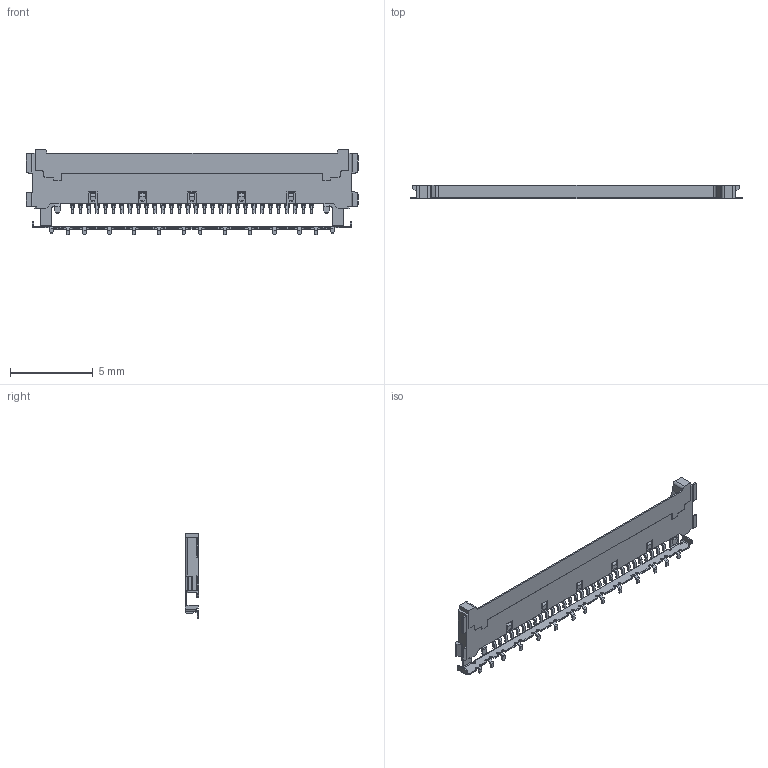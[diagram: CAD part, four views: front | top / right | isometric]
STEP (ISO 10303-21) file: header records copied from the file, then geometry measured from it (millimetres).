
FILE_DESCRIPTION (( 'STEP AP203' ), '1' );
FILE_NAME ('20849-030E-01C RECE ASS''Y STEP R1 ALL.STEP', '2017-09-06T06:48:45', ( '' ), ( '' ), 'SwSTEP 2.0', 'SolidWorks 2014', '' );
FILE_SCHEMA (( 'CONFIG_CONTROL_DESIGN' ));
Length unit declared in the file: millimetre
Products named in the file (1): 20849-030E-01C RECE ASS''Y STEP R1 ALL
Bounding box: 20.1 x 0.82 x 5.2 mm (x, y, z)
Volume: 37.2 mm3; surface area: 221.8 mm2
Topology: 1 solids, 1 shells, 1208 faces, 3435 edges, 2264 vertices
Faces by surface type: plane 775, cylinder 433
Entity records: 39262 total; most frequent: CARTESIAN_POINT 6938, ORIENTED_EDGE 6870, DIRECTION 6709, EDGE_CURVE 3435, LINE 2559, VECTOR 2559, VERTEX_POINT 2264, AXIS2_PLACEMENT_3D 2075
